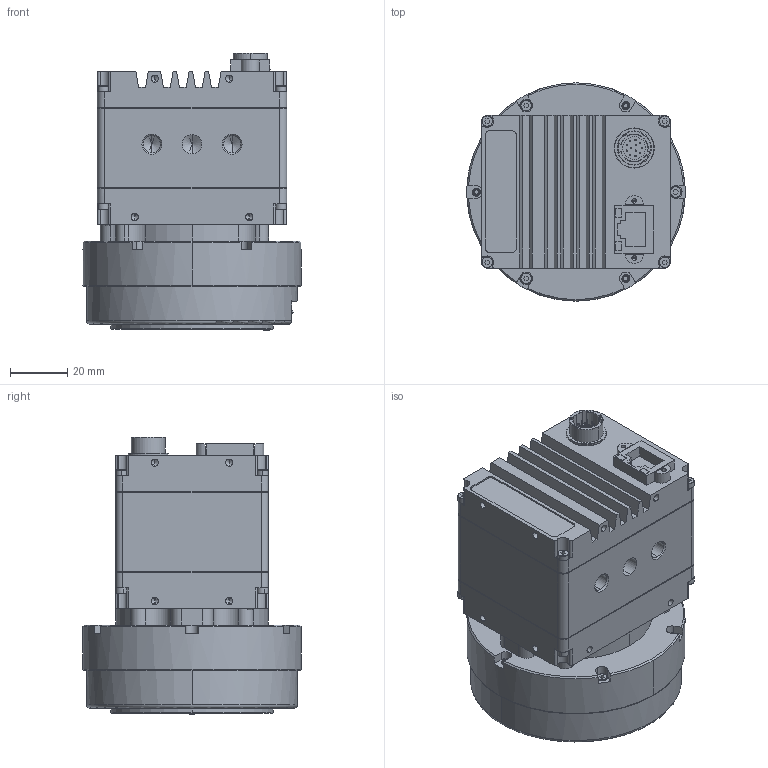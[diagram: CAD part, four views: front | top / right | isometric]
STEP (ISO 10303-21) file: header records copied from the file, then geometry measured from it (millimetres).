
FILE_DESCRIPTION (( 'STEP AP214' ), '1' );
FILE_NAME ('GT4907C PA F-MOUNT.STEP', '2016-01-23T00:59:24', ( '' ), ( '' ), 'SwSTEP 2.0', 'SolidWorks 2015', '' );
FILE_SCHEMA (( 'AUTOMOTIVE_DESIGN' ));
Length unit declared in the file: millimetre
Products named in the file (7): PA IR CUT FILTER ASSY - defeatured; IR CUT FILTER - defeatured; GTLF BODY ASSY - defeatured_GT4907; GT4907C PA F-MOUNT; GTLF PA FRONT ASSY - defeatured; PA NIKON F FRONT ASSY - defeatured; FILTER HOLDER - defeatured
Assembly tree (7 placements, depth 3):
  GT4907C PA F-MOUNT
    GTLF BODY ASSY - defeatured_GT4907
    GTLF PA FRONT ASSY - defeatured
    PA IR CUT FILTER ASSY - defeatured
      FILTER HOLDER - defeatured  x2
      IR CUT FILTER - defeatured
    PA NIKON F FRONT ASSY - defeatured
Bounding box: 76.2 x 76.2 x 96.77 mm (x, y, z)
Volume: 225337.7 mm3; surface area: 67022.1 mm2
Topology: 6 solids, 14 shells, 1240 faces, 3155 edges, 1958 vertices
Faces by surface type: cylinder 496, plane 453, cone 178, bspline 65, sphere 26, torus 22
Entity records: 57747 total; most frequent: CARTESIAN_POINT 24658, DIRECTION 5967, ORIENTED_EDGE 5680, EDGE_CURVE 2840, AXIS2_PLACEMENT_3D 2254, VERTEX_POINT 1818, LINE 1459, VECTOR 1459
